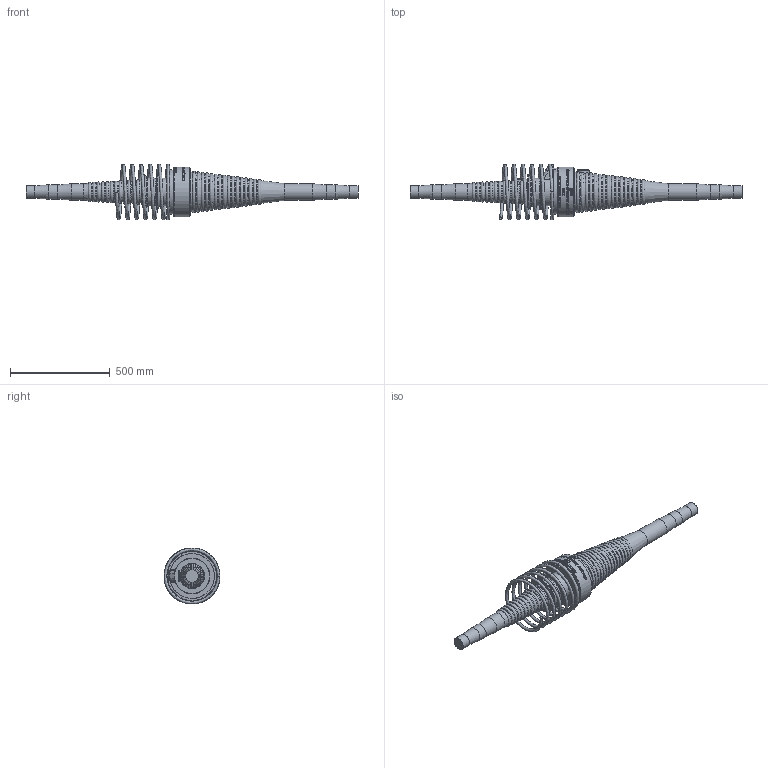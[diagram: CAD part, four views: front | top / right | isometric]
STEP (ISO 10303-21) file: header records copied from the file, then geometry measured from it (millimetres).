
FILE_DESCRIPTION(/* description */ (''),/* implementation_level */ '2;1');
FILE_NAME(/* name */ 'BBR VT CONA CMI BT 1206_Couler K Assembly_CS-43,35_Helix.stp',/* time_stamp */ '2024-10-31T11:26:14+01:00',/* author */ ('tk'),/* organization */ (''),/* preprocessor_version */ 'ST-DEVELOPER v20',/* originating_system */ 'Autodesk Inventor 2024',/* authorisation */ '');
FILE_SCHEMA (('AUTOMOTIVE_DESIGN { 1 0 10303 214 3 1 1 }'));
Products named in the file (1): BBR VT CONA CMI BT 1206_Couler K Assembly_CS-43,35_Helix
Bounding box: 1664.56 x 280 x 280 mm (x, y, z)
Volume: 22147322.8 mm3; surface area: 980287.7 mm2
Topology: 2 solids, 2 shells, 990 faces, 2600 edges, 1690 vertices
Faces by surface type: bspline 382, plane 350, torus 104, cylinder 96, cone 34, sphere 24
Full cylindrical faces by diameter (mm): 57 x2, 64 x1, 64.013 x1, 74 x1, 74.013 x1, 84 x1, 84.013 x1, 177.282 x1, 178.841 x1, 240 x1, 246 x1, 250 x1
Entity records: 44275 total; most frequent: CARTESIAN_POINT 20715, ORIENTED_EDGE 5200, DIRECTION 3855, EDGE_CURVE 2600, VERTEX_POINT 1690, AXIS2_PLACEMENT_3D 1423, EDGE_LOOP 1068, LINE 1009
